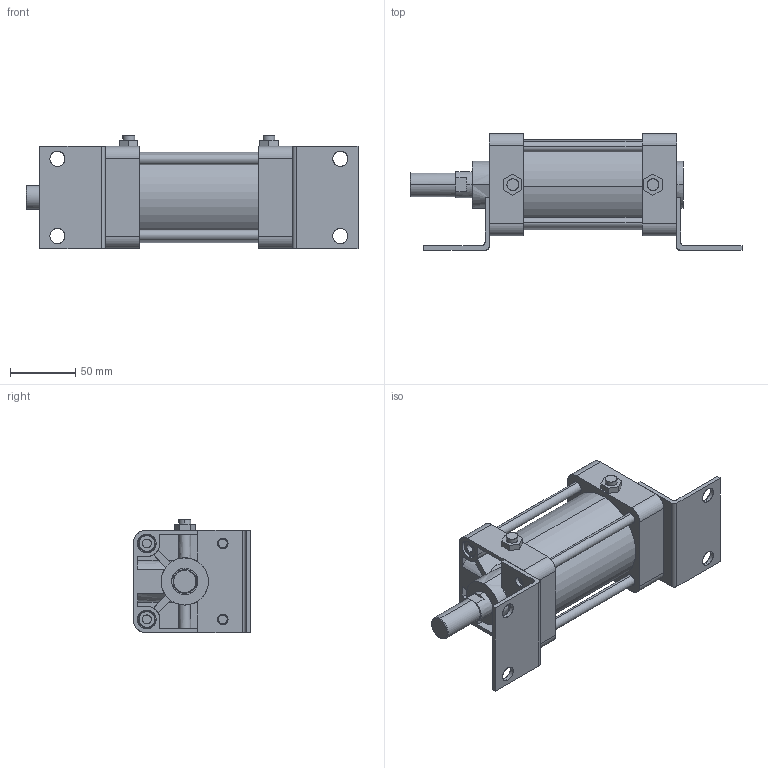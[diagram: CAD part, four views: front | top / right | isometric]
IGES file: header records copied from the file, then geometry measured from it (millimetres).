
Start section: SolidWorks IGES file using analytic representation for surfaces
Global section: file name: C:\Users\Toshiba\Desktop\KG2-63-50-L.IGS; native system: SolidWorks 2014; preprocessor: SolidWorks 2014; author: Toshiba; date: 160401.161552; units: millimetre
Bounding box: 253.5 x 89 x 86.3 mm (x, y, z)
Surface area: 147203.9 mm2 (no closed solid volume)
Topology: 0 solids, 0 shells, 355 faces, 5714 edges, 5710 vertices
Faces by surface type: bspline 187, revolution 168
